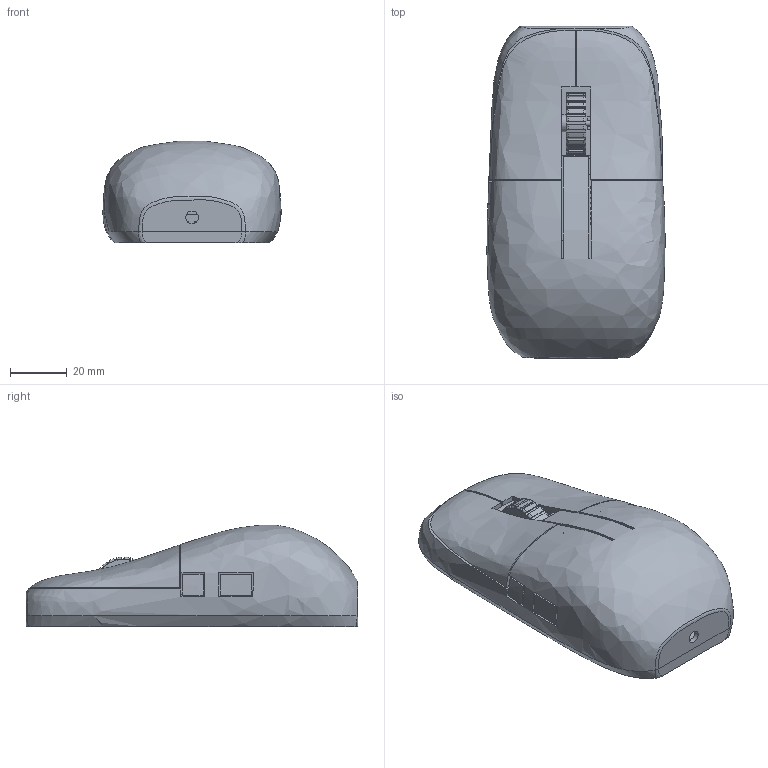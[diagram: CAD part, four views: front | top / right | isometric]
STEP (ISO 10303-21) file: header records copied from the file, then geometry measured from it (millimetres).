
FILE_DESCRIPTION(/* description */ (''),/* implementation_level */ '2;1');
FILE_NAME(/* name */ 'mouse_assembly.step',/* time_stamp */ '2026-11-26T02:56:15+03:00',/* author */ (''),/* organization */ (''),/* preprocessor_version */ 'ST-DEVELOPER v18.102',/* originating_system */ 'SIEMENS PLM Software NX2206.9140',/* authorisation */ '');
FILE_SCHEMA (('AUTOMOTIVE_DESIGN { 1 0 10303 214 3 1 1 1 }'));
Products named in the file (12): lm19_lens_envelope; hinge_pin; axle_pin; wheel; key_back; key_fwd; btn_right; btn_left; top_shell; bottom_shell; pcb; mouse_asm
Assembly tree (12 placements, depth 2):
  mouse_asm
    pcb
    bottom_shell
    top_shell
    btn_left
    btn_right
    key_fwd
    key_back
    wheel
    axle_pin
    hinge_pin  x2
    lm19_lens_envelope
Bounding box: 62.82 x 117 x 35.92 mm (x, y, z)
Volume: 44769.9 mm3; surface area: 54350.1 mm2
Topology: 80 solids, 80 shells, 2886 faces, 7405 edges, 4807 vertices
Faces by surface type: plane 1981, cylinder 661, bspline 242, torus 2
Full cylindrical faces by diameter (mm): 0.35 x9, 0.5 x17, 0.7 x16, 1 x5, 1.2 x18, 1.7 x6, 1.75 x2, 1.95 x8, 2 x1, 2.2 x4, 2.4 x6, 3 x3, 3.6 x1, 4.4 x4, 4.5 x1, 5 x6, 5.2 x2, 6 x1
Entity records: 112944 total; most frequent: CARTESIAN_POINT 42978, ORIENTED_EDGE 14706, DIRECTION 13326, EDGE_CURVE 7353, LINE 5372, VECTOR 5372, VERTEX_POINT 4795, AXIS2_PLACEMENT_3D 3977
